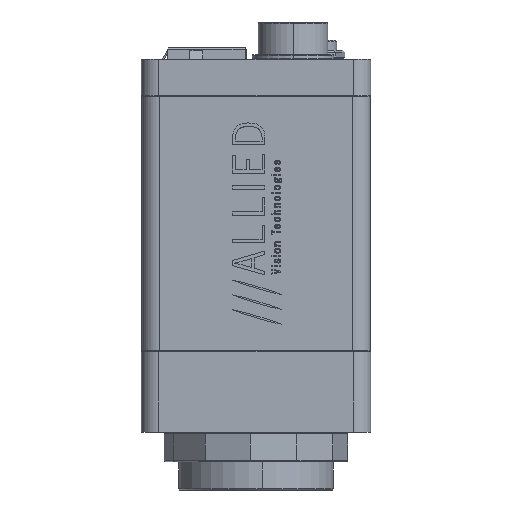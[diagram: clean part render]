
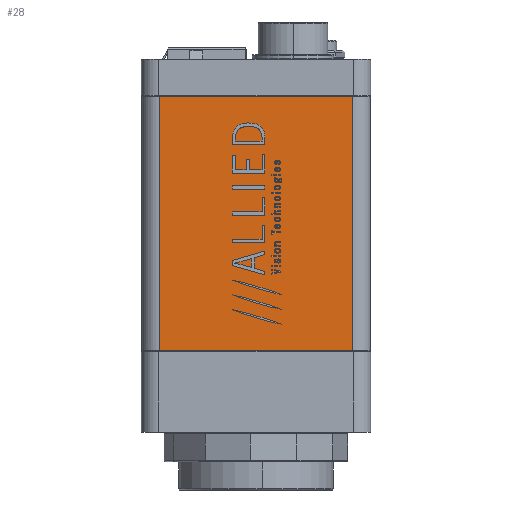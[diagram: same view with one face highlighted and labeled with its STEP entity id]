
A CAD part, left-side view. The second image highlights one B-rep face of the part: STEP entity #28.
In plain terms, the highlighted planar face has unit normal (-1, 0, 0).
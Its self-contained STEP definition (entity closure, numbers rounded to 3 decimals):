
#28 = ADVANCED_FACE ( 'NONE', ( #103032 ), #13255, .T. ) ;
#2014 = LINE ( 'NONE', #148065, #79934 ) ;
#7603 = DIRECTION ( 'NONE',  ( 0., 0., 1. ) ) ;
#8544 = DIRECTION ( 'NONE',  ( -1., 0., 0. ) ) ;
#8994 = CARTESIAN_POINT ( 'NONE',  ( -25.714, 16.558, 108.336 ) ) ;
#13255 = PLANE ( 'NONE',  #42751 ) ;
#22685 = DIRECTION ( 'NONE',  ( 0., 0., 1. ) ) ;
#25812 = VERTEX_POINT ( 'NONE', #123163 ) ;
#40707 = DIRECTION ( 'NONE',  ( 0., 1., 0. ) ) ;
#42751 = AXIS2_PLACEMENT_3D ( 'NONE', #8994, #8544, #7603 ) ;
#46700 = VERTEX_POINT ( 'NONE', #83279 ) ;
#56131 = VECTOR ( 'NONE', #22685, 1000. ) ;
#77637 = DIRECTION ( 'NONE',  ( 0., 0., 1. ) ) ;
#79715 = ORIENTED_EDGE ( 'NONE', *, *, #170518, .F. ) ;
#79934 = VECTOR ( 'NONE', #40707, 1000. ) ;
#83279 = CARTESIAN_POINT ( 'NONE',  ( -25.714, -16.558, 0. ) ) ;
#97289 = LINE ( 'NONE', #98719, #56131 ) ;
#98719 = CARTESIAN_POINT ( 'NONE',  ( -25.714, -16.558, 108.336 ) ) ;
#100400 = ORIENTED_EDGE ( 'NONE', *, *, #175813, .F. ) ;
#103032 = FACE_OUTER_BOUND ( 'NONE', #183787, .T. ) ;
#113322 = VECTOR ( 'NONE', #134254, 1000. ) ;
#114556 = VERTEX_POINT ( 'NONE', #191586 ) ;
#121205 = EDGE_CURVE ( 'NONE', #46700, #114556, #2014, .T. ) ;
#123163 = CARTESIAN_POINT ( 'NONE',  ( -25.714, 16.558, 43.65 ) ) ;
#129061 = EDGE_CURVE ( 'NONE', #46700, #165417, #97289, .T. ) ;
#134161 = CARTESIAN_POINT ( 'NONE',  ( -25.714, -16.558, 43.65 ) ) ;
#134254 = DIRECTION ( 'NONE',  ( 0., -1., 0. ) ) ;
#148065 = CARTESIAN_POINT ( 'NONE',  ( -25.714, -16.558, 0. ) ) ;
#149659 = CARTESIAN_POINT ( 'NONE',  ( -25.714, 16.558, 43.65 ) ) ;
#156309 = ORIENTED_EDGE ( 'NONE', *, *, #121205, .F. ) ;
#158503 = VECTOR ( 'NONE', #77637, 1000. ) ;
#160786 = ORIENTED_EDGE ( 'NONE', *, *, #129061, .T. ) ;
#165417 = VERTEX_POINT ( 'NONE', #134161 ) ;
#170518 = EDGE_CURVE ( 'NONE', #114556, #25812, #197835, .T. ) ;
#175813 = EDGE_CURVE ( 'NONE', #25812, #165417, #193848, .T. ) ;
#183787 = EDGE_LOOP ( 'NONE', ( #79715, #156309, #160786, #100400 ) ) ;
#184657 = CARTESIAN_POINT ( 'NONE',  ( -25.714, 16.558, 108.336 ) ) ;
#191586 = CARTESIAN_POINT ( 'NONE',  ( -25.714, 16.558, 0. ) ) ;
#193848 = LINE ( 'NONE', #149659, #113322 ) ;
#197835 = LINE ( 'NONE', #184657, #158503 ) ;
